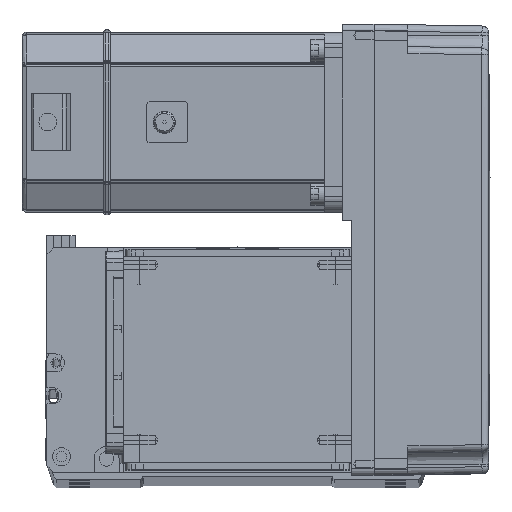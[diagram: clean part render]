
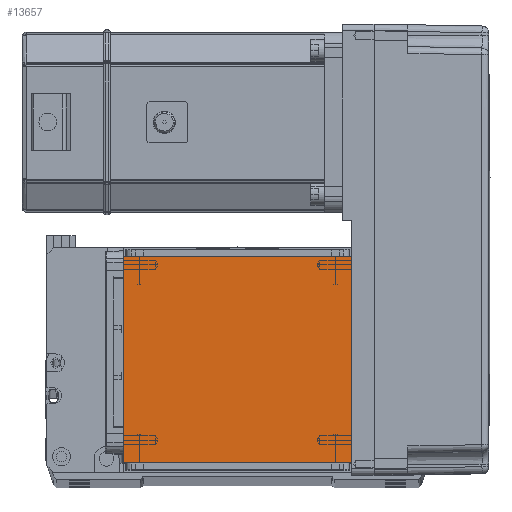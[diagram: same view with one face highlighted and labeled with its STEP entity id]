
A CAD part, top view. The second image highlights one B-rep face of the part: STEP entity #13657.
In plain terms, the highlighted planar face has unit normal (0, 0, 1).
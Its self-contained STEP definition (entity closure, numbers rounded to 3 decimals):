
#1736 = VECTOR ( 'NONE', #60759, 1000. ) ;
#3033 = EDGE_CURVE ( 'NONE', #39260, #56067, #10408, .T. ) ;
#3910 = EDGE_LOOP ( 'NONE', ( #47985, #35195, #52640, #27437 ) ) ;
#4936 = CARTESIAN_POINT ( 'NONE',  ( 50.5, 20., 115. ) ) ;
#7029 = DIRECTION ( 'NONE',  ( 0., -1., 0. ) ) ;
#7474 = LINE ( 'NONE', #16169, #9024 ) ;
#8406 = CARTESIAN_POINT ( 'NONE',  ( -70.004, 111.5, 115. ) ) ;
#8869 = VECTOR ( 'NONE', #41438, 1000. ) ;
#9024 = VECTOR ( 'NONE', #7029, 1000. ) ;
#10367 = CARTESIAN_POINT ( 'NONE',  ( -50.5, 111.5, 115. ) ) ;
#10408 = LINE ( 'NONE', #22321, #8869 ) ;
#12963 = CARTESIAN_POINT ( 'NONE',  ( 50.5, 111.5, 115. ) ) ;
#13657 = ADVANCED_FACE ( 'NONE', ( #46523 ), #43280, .T. ) ;
#14838 = VECTOR ( 'NONE', #45988, 1000. ) ;
#15764 = EDGE_CURVE ( 'NONE', #39804, #55706, #42384, .T. ) ;
#16169 = CARTESIAN_POINT ( 'NONE',  ( -50.5, 122., 115. ) ) ;
#22321 = CARTESIAN_POINT ( 'NONE',  ( -70.004, 20., 115. ) ) ;
#24212 = CARTESIAN_POINT ( 'NONE',  ( 0., 0., 115. ) ) ;
#27437 = ORIENTED_EDGE ( 'NONE', *, *, #58359, .T. ) ;
#32079 = CARTESIAN_POINT ( 'NONE',  ( 50.5, 122., 115. ) ) ;
#35195 = ORIENTED_EDGE ( 'NONE', *, *, #53974, .T. ) ;
#37656 = LINE ( 'NONE', #32079, #14838 ) ;
#38119 = AXIS2_PLACEMENT_3D ( 'NONE', #24212, #47714, #58092 ) ;
#39260 = VERTEX_POINT ( 'NONE', #4936 ) ;
#39804 = VERTEX_POINT ( 'NONE', #10367 ) ;
#41438 = DIRECTION ( 'NONE',  ( -1., 0., 0. ) ) ;
#42384 = LINE ( 'NONE', #8406, #1736 ) ;
#43280 = PLANE ( 'NONE',  #38119 ) ;
#45988 = DIRECTION ( 'NONE',  ( 0., 1., 0. ) ) ;
#46523 = FACE_OUTER_BOUND ( 'NONE', #3910, .T. ) ;
#47714 = DIRECTION ( 'NONE',  ( 0., 0., 1. ) ) ;
#47985 = ORIENTED_EDGE ( 'NONE', *, *, #15764, .F. ) ;
#52640 = ORIENTED_EDGE ( 'NONE', *, *, #3033, .F. ) ;
#53974 = EDGE_CURVE ( 'NONE', #39804, #56067, #7474, .T. ) ;
#55706 = VERTEX_POINT ( 'NONE', #12963 ) ;
#56067 = VERTEX_POINT ( 'NONE', #61403 ) ;
#58092 = DIRECTION ( 'NONE',  ( 1., 0., 0. ) ) ;
#58359 = EDGE_CURVE ( 'NONE', #39260, #55706, #37656, .T. ) ;
#60759 = DIRECTION ( 'NONE',  ( 1., 0., 0. ) ) ;
#61403 = CARTESIAN_POINT ( 'NONE',  ( -50.5, 20., 115. ) ) ;
